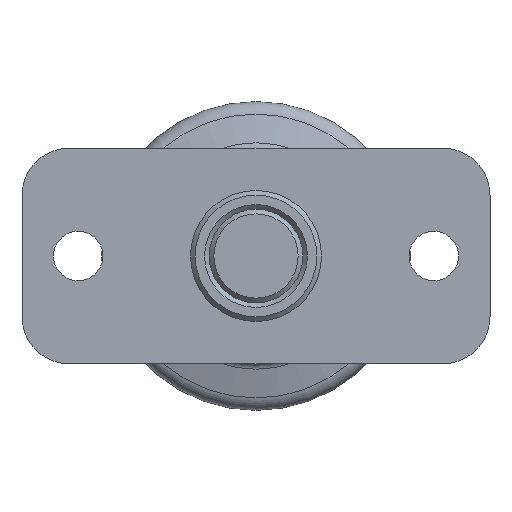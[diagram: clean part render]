
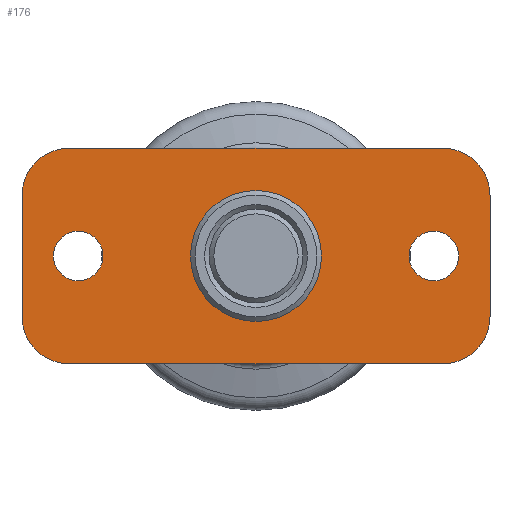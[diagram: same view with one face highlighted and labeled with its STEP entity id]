
A CAD part, front view. The second image highlights one B-rep face of the part: STEP entity #176.
In plain terms, the highlighted planar face has unit normal (0, -1, 0).
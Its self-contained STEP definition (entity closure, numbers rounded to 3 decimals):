
#176 = ADVANCED_FACE( '', ( #255, #256, #257, #258 ), #259, .F. );
#255 = FACE_BOUND( '', #422, .T. );
#256 = FACE_BOUND( '', #423, .T. );
#257 = FACE_BOUND( '', #424, .T. );
#258 = FACE_OUTER_BOUND( '', #425, .T. );
#259 = PLANE( '', #426 );
#422 = EDGE_LOOP( '', ( #626 ) );
#423 = EDGE_LOOP( '', ( #627 ) );
#424 = EDGE_LOOP( '', ( #628 ) );
#425 = EDGE_LOOP( '', ( #629, #630, #631, #632, #633, #634, #635, #636 ) );
#426 = AXIS2_PLACEMENT_3D( '', #637, #638, #639 );
#626 = ORIENTED_EDGE( '', *, *, #1058, .F. );
#627 = ORIENTED_EDGE( '', *, *, #1059, .F. );
#628 = ORIENTED_EDGE( '', *, *, #1060, .F. );
#629 = ORIENTED_EDGE( '', *, *, #1048, .F. );
#630 = ORIENTED_EDGE( '', *, *, #1061, .F. );
#631 = ORIENTED_EDGE( '', *, *, #1062, .F. );
#632 = ORIENTED_EDGE( '', *, *, #1063, .F. );
#633 = ORIENTED_EDGE( '', *, *, #1064, .F. );
#634 = ORIENTED_EDGE( '', *, *, #1065, .F. );
#635 = ORIENTED_EDGE( '', *, *, #1066, .F. );
#636 = ORIENTED_EDGE( '', *, *, #1067, .F. );
#637 = CARTESIAN_POINT( '', ( -20., 0., 6.5 ) );
#638 = DIRECTION( '', ( 0., 1., 0. ) );
#639 = DIRECTION( '', ( 0., 0., 1. ) );
#1048 = EDGE_CURVE( '', #1196, #1197, #1198, .T. );
#1058 = EDGE_CURVE( '', #1213, #1213, #1214, .T. );
#1059 = EDGE_CURVE( '', #1215, #1215, #1216, .T. );
#1060 = EDGE_CURVE( '', #1217, #1217, #1218, .T. );
#1061 = EDGE_CURVE( '', #1219, #1196, #1220, .T. );
#1062 = EDGE_CURVE( '', #1221, #1219, #1222, .T. );
#1063 = EDGE_CURVE( '', #1223, #1221, #1224, .T. );
#1064 = EDGE_CURVE( '', #1225, #1223, #1226, .T. );
#1065 = EDGE_CURVE( '', #1227, #1225, #1228, .T. );
#1066 = EDGE_CURVE( '', #1229, #1227, #1230, .T. );
#1067 = EDGE_CURVE( '', #1197, #1229, #1231, .T. );
#1196 = VERTEX_POINT( '', #1504 );
#1197 = VERTEX_POINT( '', #1505 );
#1198 = LINE( '', #1506, #1507 );
#1213 = VERTEX_POINT( '', #1527 );
#1214 = CIRCLE( '', #1528, 2.65 );
#1215 = VERTEX_POINT( '', #1529 );
#1216 = CIRCLE( '', #1530, 2.65 );
#1217 = VERTEX_POINT( '', #1531 );
#1218 = CIRCLE( '', #1532, 7. );
#1219 = VERTEX_POINT( '', #1533 );
#1220 = CIRCLE( '', #1534, 5. );
#1221 = VERTEX_POINT( '', #1535 );
#1222 = LINE( '', #1536, #1537 );
#1223 = VERTEX_POINT( '', #1538 );
#1224 = CIRCLE( '', #1539, 5. );
#1225 = VERTEX_POINT( '', #1540 );
#1226 = LINE( '', #1541, #1542 );
#1227 = VERTEX_POINT( '', #1543 );
#1228 = CIRCLE( '', #1544, 5. );
#1229 = VERTEX_POINT( '', #1545 );
#1230 = LINE( '', #1546, #1547 );
#1231 = CIRCLE( '', #1548, 5. );
#1504 = CARTESIAN_POINT( '', ( -25., 0., -6.5 ) );
#1505 = CARTESIAN_POINT( '', ( -25., 0., 6.5 ) );
#1506 = CARTESIAN_POINT( '', ( -25., 0., -6.5 ) );
#1507 = VECTOR( '', #1854, 1000. );
#1527 = CARTESIAN_POINT( '', ( -19., 0., -2.65 ) );
#1528 = AXIS2_PLACEMENT_3D( '', #1872, #1873, #1874 );
#1529 = CARTESIAN_POINT( '', ( 19., 0., -2.65 ) );
#1530 = AXIS2_PLACEMENT_3D( '', #1875, #1876, #1877 );
#1531 = CARTESIAN_POINT( '', ( 0., 0., -7. ) );
#1532 = AXIS2_PLACEMENT_3D( '', #1878, #1879, #1880 );
#1533 = CARTESIAN_POINT( '', ( -20., 0., -11.5 ) );
#1534 = AXIS2_PLACEMENT_3D( '', #1881, #1882, #1883 );
#1535 = CARTESIAN_POINT( '', ( 20., 0., -11.5 ) );
#1536 = CARTESIAN_POINT( '', ( 20., 0., -11.5 ) );
#1537 = VECTOR( '', #1884, 1000. );
#1538 = CARTESIAN_POINT( '', ( 25., 0., -6.5 ) );
#1539 = AXIS2_PLACEMENT_3D( '', #1885, #1886, #1887 );
#1540 = CARTESIAN_POINT( '', ( 25., 0., 6.5 ) );
#1541 = CARTESIAN_POINT( '', ( 25., 0., 6.5 ) );
#1542 = VECTOR( '', #1888, 1000. );
#1543 = CARTESIAN_POINT( '', ( 20., 0., 11.5 ) );
#1544 = AXIS2_PLACEMENT_3D( '', #1889, #1890, #1891 );
#1545 = CARTESIAN_POINT( '', ( -20., 0., 11.5 ) );
#1546 = CARTESIAN_POINT( '', ( -20., 0., 11.5 ) );
#1547 = VECTOR( '', #1892, 1000. );
#1548 = AXIS2_PLACEMENT_3D( '', #1893, #1894, #1895 );
#1854 = DIRECTION( '', ( 0., 0., 1. ) );
#1872 = CARTESIAN_POINT( '', ( -19., 0., 0. ) );
#1873 = DIRECTION( '', ( 0., -1., 0. ) );
#1874 = DIRECTION( '', ( 0., 0., -1. ) );
#1875 = CARTESIAN_POINT( '', ( 19., 0., 0. ) );
#1876 = DIRECTION( '', ( 0., -1., 0. ) );
#1877 = DIRECTION( '', ( 0., 0., -1. ) );
#1878 = CARTESIAN_POINT( '', ( 0., 0., 0. ) );
#1879 = DIRECTION( '', ( 0., -1., 0. ) );
#1880 = DIRECTION( '', ( 0., 0., -1. ) );
#1881 = CARTESIAN_POINT( '', ( -20., 0., -6.5 ) );
#1882 = DIRECTION( '', ( 0., 1., 0. ) );
#1883 = DIRECTION( '', ( 1., 0., 0. ) );
#1884 = DIRECTION( '', ( -1., 0., 0. ) );
#1885 = CARTESIAN_POINT( '', ( 20., 0., -6.5 ) );
#1886 = DIRECTION( '', ( 0., 1., 0. ) );
#1887 = DIRECTION( '', ( 1., 0., 0. ) );
#1888 = DIRECTION( '', ( 0., 0., -1. ) );
#1889 = CARTESIAN_POINT( '', ( 20., 0., 6.5 ) );
#1890 = DIRECTION( '', ( 0., 1., 0. ) );
#1891 = DIRECTION( '', ( 1., 0., 0. ) );
#1892 = DIRECTION( '', ( 1., 0., 0. ) );
#1893 = CARTESIAN_POINT( '', ( -20., 0., 6.5 ) );
#1894 = DIRECTION( '', ( 0., 1., 0. ) );
#1895 = DIRECTION( '', ( 1., 0., 0. ) );
